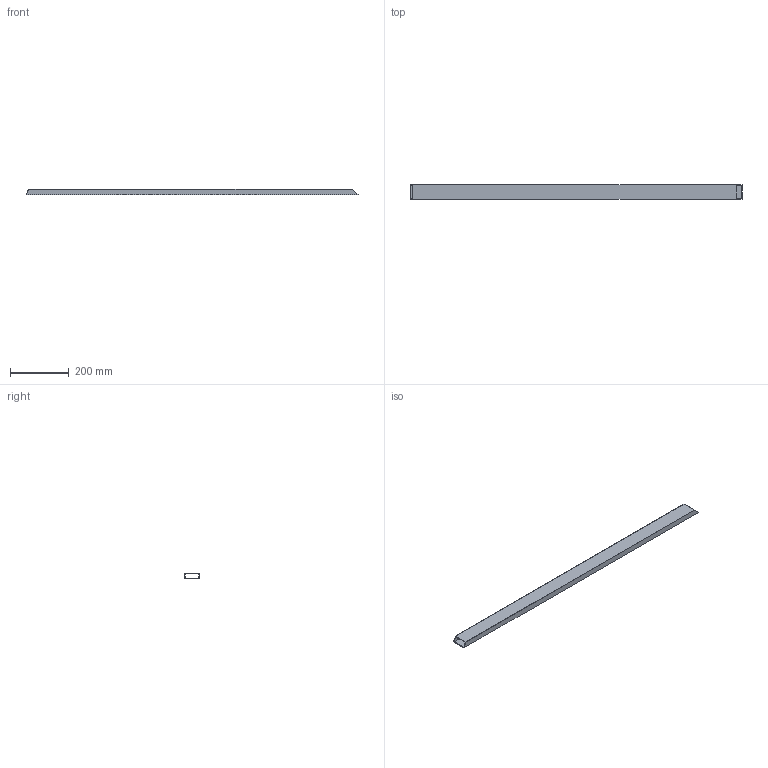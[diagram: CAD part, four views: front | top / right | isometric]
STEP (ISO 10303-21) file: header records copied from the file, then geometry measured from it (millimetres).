
FILE_DESCRIPTION(/* description */ (''),/* implementation_level */ '2;1');
FILE_NAME(/* name */ 'Pos123-Koker 50x20x2 EN 10219-2-S235JRH-1st',/* time_stamp */ '2024-08-06T13:49:48+02:00',/* author */ (''),/* organization */ (''),/* preprocessor_version */ 'ST-DEVELOPER v16.5',/* originating_system */ 'HiCAD 2024 2901.2 Build 361',/* authorisation */ '');
FILE_SCHEMA (('AUTOMOTIVE_DESIGN { 1 0 10303 214 1 1 1 1 }'));
Length unit declared in the file: millimetre
Products named in the file (1): Pos123-Koker 50x20x2 EN 10219-2-S235JRH-1st
Bounding box: 1126.52 x 50 x 20 mm (x, y, z)
Volume: 293502.2 mm3; surface area: 294168.1 mm2
Topology: 1 solids, 1 shells, 10 faces, 24 edges, 16 vertices
Faces by surface type: plane 10
Entity records: 550 total; most frequent: CARTESIAN_POINT 50, PRESENTATION_STYLE_ASSIGNMENT 49, COLOUR_RGB 49, DRAUGHTING_PRE_DEFINED_CURVE_FONT 48, CURVE_STYLE 48, OVER_RIDING_STYLED_ITEM 48, ORIENTED_EDGE 48, DIRECTION 44
